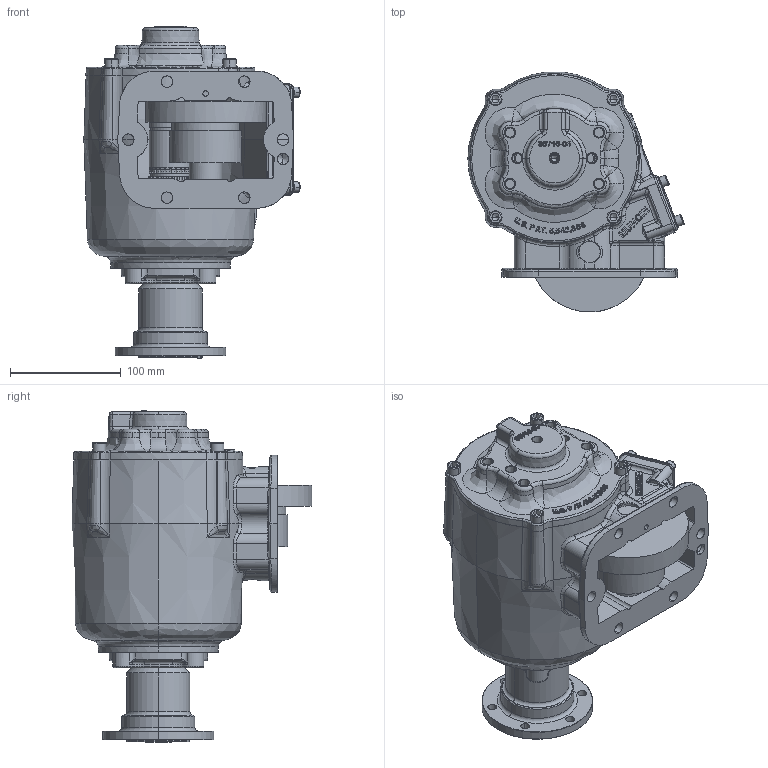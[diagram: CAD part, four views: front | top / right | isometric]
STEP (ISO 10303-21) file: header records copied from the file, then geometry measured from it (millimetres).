
FILE_DESCRIPTION (( 'STEP AP203' ), '1' );
FILE_NAME ('CS6S-A67XX-H12X.STEP', '2023-04-24T19:40:02', ( '' ), ( '' ), 'SwSTEP 2.0', 'SolidWorks 2021', '' );
FILE_SCHEMA (( 'CONFIG_CONTROL_DESIGN' ));
Length unit declared in the file: inch
Products named in the file (10): 15T41683; 14T37378; CS6S-XXXXX-X1XX; 19T38266; 06T37372_06T37372; 15TA5220_Config1; 21T20092; 10T21017; CS6S-A67XX-H12X; 11T37790
Assembly tree (9 placements, depth 3):
  CS6S-A67XX-H12X
    CS6S-XXXXX-X1XX
    06T37372_06T37372
    15TA5220_Config1
      15T41683
      11T37790
    21T20092
    19T38266
    10T21017
    14T37378
Bounding box: 195.33 x 216.75 x 299.9 mm (x, y, z)
Volume: 1871607.1 mm3; surface area: 466727.8 mm2
Topology: 17 solids, 17 shells, 2827 faces, 7406 edges, 4648 vertices
Faces by surface type: bspline 928, plane 697, cylinder 605, cone 336, torus 241, sphere 20
Entity records: 226498 total; most frequent: CARTESIAN_POINT 165271, ORIENTED_EDGE 14588, DIRECTION 9063, EDGE_CURVE 7294, VERTEX_POINT 4621, B_SPLINE_CURVE_WITH_KNOTS 3565, AXIS2_PLACEMENT_3D 3435, EDGE_LOOP 3057
